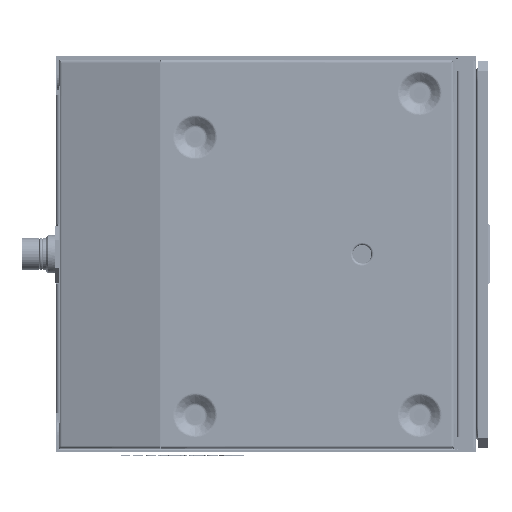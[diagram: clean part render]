
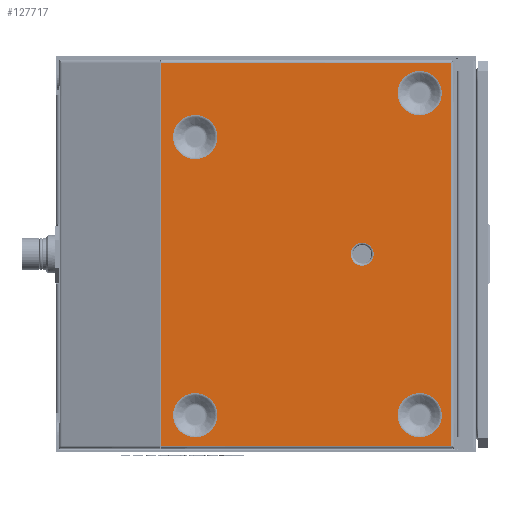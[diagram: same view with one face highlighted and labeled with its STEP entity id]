
A CAD part, front view. The second image highlights one B-rep face of the part: STEP entity #127717.
In plain terms, the highlighted planar face has unit normal (0, -1, 0).
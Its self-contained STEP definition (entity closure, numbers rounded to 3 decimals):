
#2016 = CIRCLE ( 'NONE', #206713, 7.493 ) ;
#2754 = AXIS2_PLACEMENT_3D ( 'NONE', #196230, #10372, #227415 ) ;
#5132 = EDGE_CURVE ( 'NONE', #48136, #281923, #179691, .T. ) ;
#6328 = CARTESIAN_POINT ( 'NONE',  ( 64.143, -1.143, -7.493 ) ) ;
#7076 = CARTESIAN_POINT ( 'NONE',  ( -44.45, -1.143, -119.149 ) ) ;
#9022 = DIRECTION ( 'NONE',  ( 0., 0., 1. ) ) ;
#10372 = DIRECTION ( 'NONE',  ( 0., -1., 0. ) ) ;
#15340 = EDGE_LOOP ( 'NONE', ( #298931, #212935 ) ) ;
#15461 = EDGE_CURVE ( 'NONE', #198074, #105975, #227099, .T. ) ;
#18925 = CARTESIAN_POINT ( 'NONE',  ( 64.143, -1.143, 0. ) ) ;
#21585 = DIRECTION ( 'NONE',  ( 1., 0., 0. ) ) ;
#22350 = DIRECTION ( 'NONE',  ( 0., 0., 1. ) ) ;
#30235 = VERTEX_POINT ( 'NONE', #267246 ) ;
#39111 = CARTESIAN_POINT ( 'NONE',  ( -44.45, -1.143, 90.574 ) ) ;
#39509 = CARTESIAN_POINT ( 'NONE',  ( -44.45, -1.143, 76.2 ) ) ;
#48136 = VERTEX_POINT ( 'NONE', #236142 ) ;
#50055 = EDGE_CURVE ( 'NONE', #281923, #48136, #297057, .T. ) ;
#50213 = DIRECTION ( 'NONE',  ( 0., 0., 1. ) ) ;
#54053 = LINE ( 'NONE', #207459, #374423 ) ;
#55673 = DIRECTION ( 'NONE',  ( 0., 0., -1. ) ) ;
#61083 = VECTOR ( 'NONE', #226088, 1000. ) ;
#70693 = DIRECTION ( 'NONE',  ( 0., 0., -1. ) ) ;
#75690 = CARTESIAN_POINT ( 'NONE',  ( 101.6, -1.143, 90.401 ) ) ;
#77321 = VERTEX_POINT ( 'NONE', #331855 ) ;
#82579 = VERTEX_POINT ( 'NONE', #302373 ) ;
#83493 = FACE_BOUND ( 'NONE', #378024, .T. ) ;
#84060 = EDGE_LOOP ( 'NONE', ( #204560, #105557 ) ) ;
#93265 = FACE_BOUND ( 'NONE', #175625, .T. ) ;
#93947 = ORIENTED_EDGE ( 'NONE', *, *, #139523, .T. ) ;
#99504 = CARTESIAN_POINT ( 'NONE',  ( -67., -1.143, -124.563 ) ) ;
#101355 = EDGE_CURVE ( 'NONE', #82579, #312177, #265341, .T. ) ;
#105557 = ORIENTED_EDGE ( 'NONE', *, *, #234006, .F. ) ;
#105975 = VERTEX_POINT ( 'NONE', #247478 ) ;
#106623 = CARTESIAN_POINT ( 'NONE',  ( 122.206, -1.143, -124.563 ) ) ;
#106677 = EDGE_CURVE ( 'NONE', #304336, #30235, #54053, .T. ) ;
#107585 = CIRCLE ( 'NONE', #276129, 14.374 ) ;
#108634 = CARTESIAN_POINT ( 'NONE',  ( 101.6, -1.143, -104.775 ) ) ;
#122565 = AXIS2_PLACEMENT_3D ( 'NONE', #173870, #391063, #205084 ) ;
#127717 = ADVANCED_FACE ( 'NONE', ( #83493, #93265, #165949, #238871, #156280, #321441 ), #177004, .F. ) ;
#134709 = CARTESIAN_POINT ( 'NONE',  ( -66.886, -1.143, 124.563 ) ) ;
#137341 = VERTEX_POINT ( 'NONE', #106623 ) ;
#139523 = EDGE_CURVE ( 'NONE', #105975, #198074, #2016, .T. ) ;
#139850 = DIRECTION ( 'NONE',  ( 0., 0., -1. ) ) ;
#145252 = ORIENTED_EDGE ( 'NONE', *, *, #101355, .F. ) ;
#156280 = FACE_BOUND ( 'NONE', #84060, .T. ) ;
#158453 = ORIENTED_EDGE ( 'NONE', *, *, #106677, .F. ) ;
#159598 = CARTESIAN_POINT ( 'NONE',  ( 101.6, -1.143, 104.775 ) ) ;
#163545 = ORIENTED_EDGE ( 'NONE', *, *, #233121, .F. ) ;
#165949 = FACE_BOUND ( 'NONE', #203324, .T. ) ;
#172332 = EDGE_CURVE ( 'NONE', #365839, #400570, #261867, .T. ) ;
#173255 = DIRECTION ( 'NONE',  ( 0., -1., 0. ) ) ;
#173870 = CARTESIAN_POINT ( 'NONE',  ( 101.6, -1.143, 104.775 ) ) ;
#174382 = CARTESIAN_POINT ( 'NONE',  ( -44.45, -1.143, 76.2 ) ) ;
#175625 = EDGE_LOOP ( 'NONE', ( #209490, #145252 ) ) ;
#176841 = AXIS2_PLACEMENT_3D ( 'NONE', #39509, #256538, #70693 ) ;
#177004 = PLANE ( 'NONE',  #178679 ) ;
#178679 = AXIS2_PLACEMENT_3D ( 'NONE', #331799, #208219, #22350 ) ;
#179691 = CIRCLE ( 'NONE', #302662, 14.374 ) ;
#180389 = CARTESIAN_POINT ( 'NONE',  ( -66.886, -1.143, 124.563 ) ) ;
#181176 = DIRECTION ( 'NONE',  ( 0., -1., 0. ) ) ;
#189021 = VECTOR ( 'NONE', #393537, 1000. ) ;
#190891 = DIRECTION ( 'NONE',  ( 0., 0., -1. ) ) ;
#191041 = CIRCLE ( 'NONE', #386677, 14.374 ) ;
#194935 = DIRECTION ( 'NONE',  ( 0., 1., 0. ) ) ;
#196230 = CARTESIAN_POINT ( 'NONE',  ( 101.6, -1.143, -104.775 ) ) ;
#196502 = CIRCLE ( 'NONE', #176841, 14.374 ) ;
#198074 = VERTEX_POINT ( 'NONE', #6328 ) ;
#203324 = EDGE_LOOP ( 'NONE', ( #354090, #364597 ) ) ;
#204560 = ORIENTED_EDGE ( 'NONE', *, *, #237262, .F. ) ;
#205084 = DIRECTION ( 'NONE',  ( 0., 0., -1. ) ) ;
#205601 = DIRECTION ( 'NONE',  ( 0., 0., -1. ) ) ;
#206113 = EDGE_CURVE ( 'NONE', #400570, #365839, #270373, .T. ) ;
#206713 = AXIS2_PLACEMENT_3D ( 'NONE', #18925, #236025, #50213 ) ;
#207459 = CARTESIAN_POINT ( 'NONE',  ( -67., -1.143, 124.563 ) ) ;
#208219 = DIRECTION ( 'NONE',  ( 0., 1., 0. ) ) ;
#209490 = ORIENTED_EDGE ( 'NONE', *, *, #365402, .F. ) ;
#212615 = VECTOR ( 'NONE', #289404, 1000. ) ;
#212935 = ORIENTED_EDGE ( 'NONE', *, *, #206113, .F. ) ;
#215294 = EDGE_CURVE ( 'NONE', #77321, #137341, #368008, .T. ) ;
#215645 = ORIENTED_EDGE ( 'NONE', *, *, #215294, .T. ) ;
#226088 = DIRECTION ( 'NONE',  ( 0., 0., -1. ) ) ;
#227099 = CIRCLE ( 'NONE', #325269, 7.493 ) ;
#227209 = CARTESIAN_POINT ( 'NONE',  ( -44.45, -1.143, -104.775 ) ) ;
#227415 = DIRECTION ( 'NONE',  ( 0., 0., -1. ) ) ;
#231824 = EDGE_LOOP ( 'NONE', ( #215645, #163545, #158453, #344739 ) ) ;
#233121 = EDGE_CURVE ( 'NONE', #30235, #137341, #371764, .T. ) ;
#234006 = EDGE_CURVE ( 'NONE', #274504, #250488, #196502, .T. ) ;
#236025 = DIRECTION ( 'NONE',  ( 0., 1., 0. ) ) ;
#236142 = CARTESIAN_POINT ( 'NONE',  ( -44.45, -1.143, -90.401 ) ) ;
#237262 = EDGE_CURVE ( 'NONE', #250488, #274504, #107585, .T. ) ;
#238871 = FACE_BOUND ( 'NONE', #15340, .T. ) ;
#247478 = CARTESIAN_POINT ( 'NONE',  ( 64.143, -1.143, 7.493 ) ) ;
#250488 = VERTEX_POINT ( 'NONE', #374670 ) ;
#256538 = DIRECTION ( 'NONE',  ( 0., -1., 0. ) ) ;
#261779 = LINE ( 'NONE', #180389, #189021 ) ;
#261867 = CIRCLE ( 'NONE', #392955, 14.374 ) ;
#265341 = CIRCLE ( 'NONE', #2754, 14.374 ) ;
#266464 = ORIENTED_EDGE ( 'NONE', *, *, #15461, .T. ) ;
#267246 = CARTESIAN_POINT ( 'NONE',  ( 122.206, -1.143, 124.563 ) ) ;
#270373 = CIRCLE ( 'NONE', #122565, 14.374 ) ;
#274504 = VERTEX_POINT ( 'NONE', #39111 ) ;
#276129 = AXIS2_PLACEMENT_3D ( 'NONE', #174382, #391583, #205601 ) ;
#281923 = VERTEX_POINT ( 'NONE', #7076 ) ;
#284569 = CARTESIAN_POINT ( 'NONE',  ( 122.206, -1.143, 124.563 ) ) ;
#289404 = DIRECTION ( 'NONE',  ( 1., 0., 0. ) ) ;
#297057 = CIRCLE ( 'NONE', #360352, 14.374 ) ;
#298931 = ORIENTED_EDGE ( 'NONE', *, *, #172332, .F. ) ;
#300202 = CARTESIAN_POINT ( 'NONE',  ( 101.6, -1.143, -119.149 ) ) ;
#302373 = CARTESIAN_POINT ( 'NONE',  ( 101.6, -1.143, -90.401 ) ) ;
#302662 = AXIS2_PLACEMENT_3D ( 'NONE', #227209, #173255, #55673 ) ;
#304336 = VERTEX_POINT ( 'NONE', #134709 ) ;
#312177 = VERTEX_POINT ( 'NONE', #300202 ) ;
#321441 = FACE_OUTER_BOUND ( 'NONE', #231824, .T. ) ;
#325269 = AXIS2_PLACEMENT_3D ( 'NONE', #380842, #194935, #9022 ) ;
#325821 = DIRECTION ( 'NONE',  ( 0., -1., 0. ) ) ;
#331799 = CARTESIAN_POINT ( 'NONE',  ( -67., -1.143, 124.563 ) ) ;
#331855 = CARTESIAN_POINT ( 'NONE',  ( -66.886, -1.143, -124.563 ) ) ;
#344739 = ORIENTED_EDGE ( 'NONE', *, *, #358336, .T. ) ;
#354090 = ORIENTED_EDGE ( 'NONE', *, *, #50055, .F. ) ;
#358336 = EDGE_CURVE ( 'NONE', #304336, #77321, #261779, .T. ) ;
#360352 = AXIS2_PLACEMENT_3D ( 'NONE', #367067, #181176, #398332 ) ;
#364597 = ORIENTED_EDGE ( 'NONE', *, *, #5132, .F. ) ;
#365321 = CARTESIAN_POINT ( 'NONE',  ( 101.6, -1.143, 119.149 ) ) ;
#365402 = EDGE_CURVE ( 'NONE', #312177, #82579, #191041, .T. ) ;
#365839 = VERTEX_POINT ( 'NONE', #75690 ) ;
#367067 = CARTESIAN_POINT ( 'NONE',  ( -44.45, -1.143, -104.775 ) ) ;
#368008 = LINE ( 'NONE', #99504, #212615 ) ;
#371764 = LINE ( 'NONE', #284569, #61083 ) ;
#374423 = VECTOR ( 'NONE', #21585, 1000. ) ;
#374670 = CARTESIAN_POINT ( 'NONE',  ( -44.45, -1.143, 61.826 ) ) ;
#376764 = DIRECTION ( 'NONE',  ( 0., -1., 0. ) ) ;
#378024 = EDGE_LOOP ( 'NONE', ( #93947, #266464 ) ) ;
#380842 = CARTESIAN_POINT ( 'NONE',  ( 64.143, -1.143, 0. ) ) ;
#386677 = AXIS2_PLACEMENT_3D ( 'NONE', #108634, #325821, #139850 ) ;
#391063 = DIRECTION ( 'NONE',  ( 0., -1., 0. ) ) ;
#391583 = DIRECTION ( 'NONE',  ( 0., -1., 0. ) ) ;
#392955 = AXIS2_PLACEMENT_3D ( 'NONE', #159598, #376764, #190891 ) ;
#393537 = DIRECTION ( 'NONE',  ( 0., 0., -1. ) ) ;
#398332 = DIRECTION ( 'NONE',  ( 0., 0., -1. ) ) ;
#400570 = VERTEX_POINT ( 'NONE', #365321 ) ;
